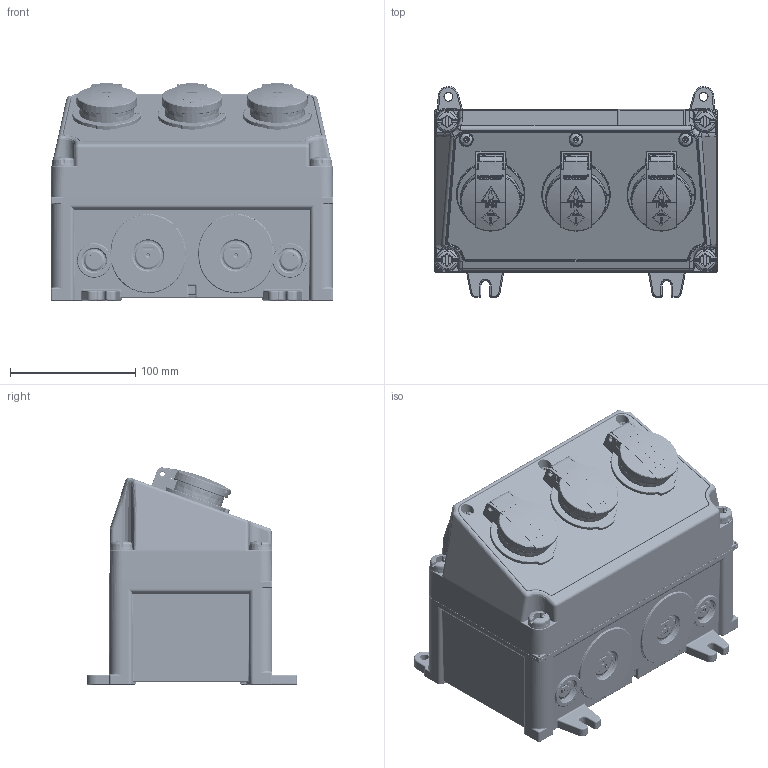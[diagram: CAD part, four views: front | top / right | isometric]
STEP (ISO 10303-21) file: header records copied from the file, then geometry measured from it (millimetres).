
FILE_DESCRIPTION((''),'2;1');
FILE_NAME('910005_ASM','2017-10-05T',('fries'),('MENNEKES'),'PRO/ENGINEER BY PARAMETRIC TECHNOLOGY CORPORATION, 2015440','PRO/ENGINEER BY PARAMETRIC TECHNOLOGY CORPORATION, 2015440','');
FILE_SCHEMA(('AUTOMOTIVE_DESIGN { 1 0 10303 214 1 1 1 1 }'));
Products named in the file (4): 1-4_SW_O_GRAU_1; MP_LEER_GRAU_1; AMAXX_SCHUKO_44_BLAU_1; 910005_ASM
Assembly tree (5 placements, depth 2):
  910005_ASM
    1-4_SW_O_GRAU_1
    MP_LEER_GRAU_1
    AMAXX_SCHUKO_44_BLAU_1  x3
Bounding box: 225 x 168.2 x 173.18 mm (x, y, z)
Volume: 2651801.8 mm3; surface area: 350331.3 mm2
Topology: 5 solids, 5 shells, 5631 faces, 15108 edges, 9593 vertices
Faces by surface type: plane 2675, cylinder 1306, torus 595, bspline 593, sphere 209, cone 157, extrusion 96
Entity records: 224130 total; most frequent: CARTESIAN_POINT 69535, ORIENTED_EDGE 24402, DIRECTION 21387, PRESENTATION_STYLE_ASSIGNMENT 13052, STYLED_ITEM 12204, CURVE_STYLE 12201, EDGE_CURVE 12201, VERTEX_POINT 7741
